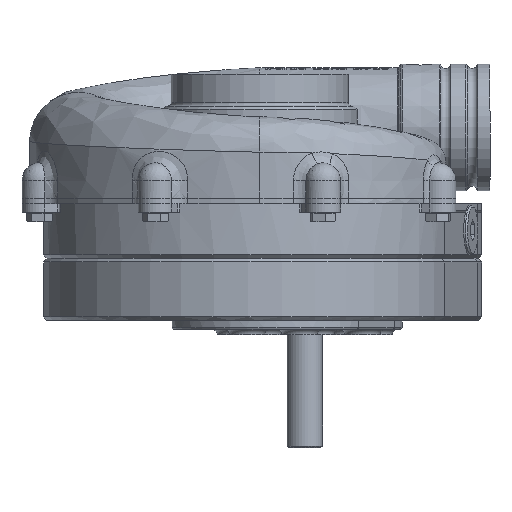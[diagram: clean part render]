
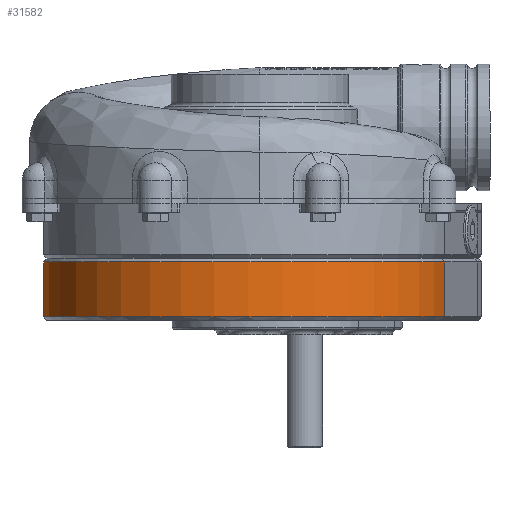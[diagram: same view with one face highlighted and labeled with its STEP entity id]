
A CAD part, front view. The second image highlights one B-rep face of the part: STEP entity #31582.
In plain terms, the highlighted cylindrical face has radius 115 mm (diameter 230 mm), a partial arc.
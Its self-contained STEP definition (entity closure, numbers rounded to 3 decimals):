
#1569=CYLINDRICAL_SURFACE('',#34040,115.);
#5091=CIRCLE('',#33537,115.);
#5359=CIRCLE('',#34041,115.);
#7224=FACE_OUTER_BOUND('',#9372,.T.);
#9372=EDGE_LOOP('',(#28662,#28663,#28664,#28665));
#10554=LINE('',#73505,#11743);
#10673=LINE('',#76094,#11862);
#11743=VECTOR('',#38863,31.);
#11862=VECTOR('',#39978,31.);
#14569=VERTEX_POINT('',#73479);
#14572=VERTEX_POINT('',#73489);
#14576=VERTEX_POINT('',#73504);
#14920=VERTEX_POINT('',#76092);
#19020=EDGE_CURVE('',#14572,#14569,#5091,.T.);
#19024=EDGE_CURVE('',#14569,#14576,#10554,.T.);
#19537=EDGE_CURVE('',#14920,#14572,#10673,.T.);
#19539=EDGE_CURVE('',#14576,#14920,#5359,.T.);
#28662=ORIENTED_EDGE('',*,*,#19020,.F.);
#28663=ORIENTED_EDGE('',*,*,#19537,.F.);
#28664=ORIENTED_EDGE('',*,*,#19539,.F.);
#28665=ORIENTED_EDGE('',*,*,#19024,.F.);
#31582=ADVANCED_FACE('',(#7224),#1569,.T.);
#33537=AXIS2_PLACEMENT_3D('',#73496,#38853,#38854);
#34040=AXIS2_PLACEMENT_3D('',#76097,#39982,#39983);
#34041=AXIS2_PLACEMENT_3D('',#76098,#39984,#39985);
#38853=DIRECTION('center_axis',(0.,0.,
-1.));
#38854=DIRECTION('ref_axis',(-0.303,-0.953,0.));
#38863=DIRECTION('',(0.,0.,1.));
#39978=DIRECTION('',(0.,0.,-1.));
#39982=DIRECTION('center_axis',(0.,0.,-1.));
#39983=DIRECTION('ref_axis',(0.303,0.953,0.));
#39984=DIRECTION('center_axis',(0.,0.,
1.));
#39985=DIRECTION('ref_axis',(-0.303,-0.953,0.));
#73479=CARTESIAN_POINT('',(-20.839,114.657,-23.));
#73489=CARTESIAN_POINT('',(-49.103,-109.733,-23.));
#73496=CARTESIAN_POINT('Origin',(-55.727,5.076,-23.));
#73504=CARTESIAN_POINT('',(-20.839,114.657,8.));
#73505=CARTESIAN_POINT('',(-20.839,114.657,0.));
#76092=CARTESIAN_POINT('',(-49.103,-109.733,8.));
#76094=CARTESIAN_POINT('',(-49.103,-109.733,0.));
#76097=CARTESIAN_POINT('Origin',(-55.727,5.076,0.));
#76098=CARTESIAN_POINT('Origin',(-55.727,5.076,8.));
